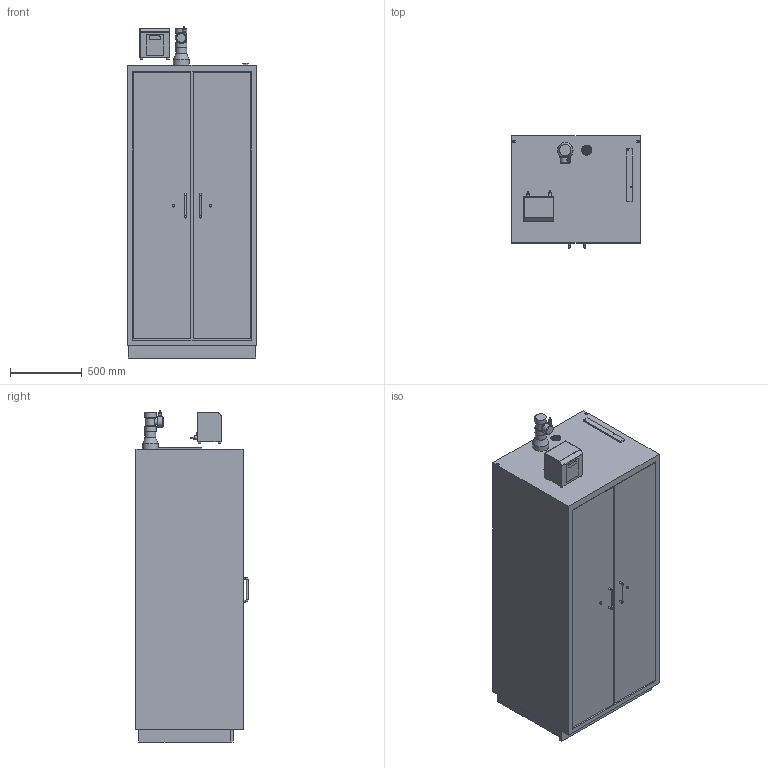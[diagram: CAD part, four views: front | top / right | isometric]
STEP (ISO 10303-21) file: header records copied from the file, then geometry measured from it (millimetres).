
FILE_DESCRIPTION(/* description */ ('Unknown'),/* implementation_level */ '2;1');
FILE_NAME(/* name */ 'SUPPLY_COMPACT_LL_D00107467',/* time_stamp */ '2020-08-25T11:30:57+02:00',/* author */ ('Unknown'),/* organization */ ('Unknown'),/* preprocessor_version */ 'ST-DEVELOPER v16.7',/* originating_system */ 'Solid Edge',/* authorisation */ 'Unknown');
FILE_SCHEMA (('AUTOMOTIVE_DESIGN {1 0 10303 214 3 1 1}'));
Length unit declared in the file: millimetre
Products named in the file (1): Sicherheitsschrank Typ 90_D00107467
Bounding box: 894 x 782 x 2317.42 mm (x, y, z)
Volume: 1315370722 mm3; surface area: 9486623 mm2
Topology: 2 solids, 2 shells, 220 faces, 509 edges, 327 vertices
Faces by surface type: plane 127, cylinder 72, sphere 8, torus 6, cone 4, bspline 3
Full cylindrical faces by diameter (mm): 6 x3, 6.2 x2, 7.5 x2, 12 x6, 18 x6, 20 x1, 22 x3, 45 x1, 70 x1, 72 x1, 75 x1, 80 x3, 109.5 x1
Entity records: 7497 total; most frequent: CARTESIAN_POINT 1102, DIRECTION 1021, ORIENTED_EDGE 890, EDGE_CURVE 445, AXIS2_PLACEMENT_3D 364, VERTEX_POINT 310, EDGE_LOOP 305, FACE_BOUND 305
